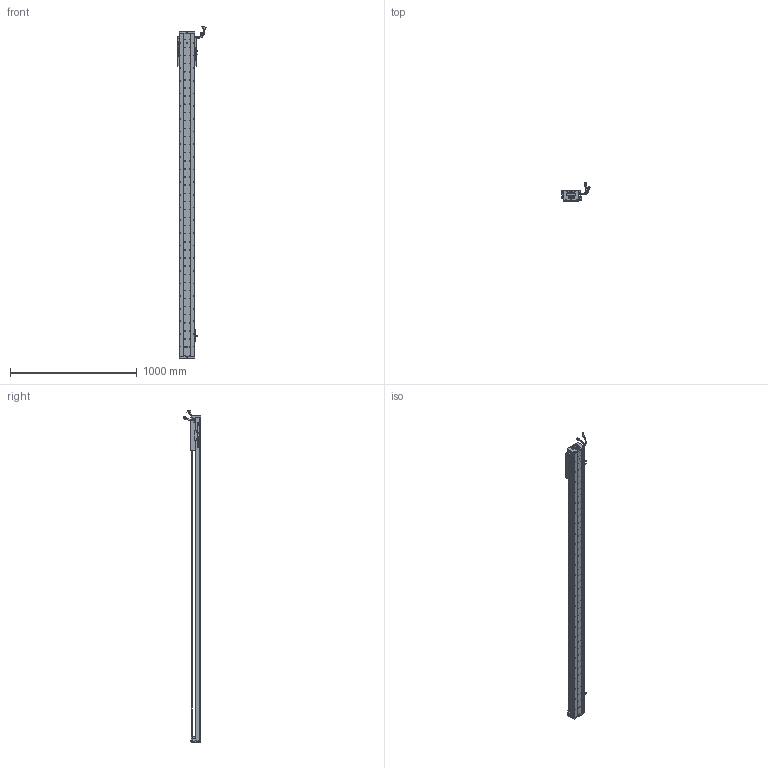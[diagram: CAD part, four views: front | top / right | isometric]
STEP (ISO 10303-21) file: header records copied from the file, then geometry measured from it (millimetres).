
FILE_DESCRIPTION (( 'STEP AP203' ), '1' );
FILE_NAME ('Z3-RY120D-1-L500-B-K.SLDASM_2250.step', '2021-05-17T05:49:42', ( '盈信电脑' ), ( '东莞市道滘镇水果街19号' ), 'SwSTEP 2.0', 'SolidWorks 2016', '' );
FILE_SCHEMA (( 'CONFIG_CONTROL_DESIGN' ));
Length unit declared in the file: millimetre
Products named in the file (37): Z3-RY120-500-倰第菁釱_2250; 120-Z-臏賑輸盄裔(21遴); SHIELDPLATE; 080黍杅芛假蚾釱21遴; Z3-RY120D-1-L500-B-K.SLDASM_2250; SCREW-M1.7; SEAL; PBU_SHEET; 140蚥薯蝶輸; Z3-RY120-L500詩湍100mm遵_2250; SCREW-M1.7-1; 140雄赽晤鎢ん堤盄; SCREW-M1.6; HARNESS-Part-2; Z-120詩湍傷裔啣; LABEL-Part-1; LABEL; Z-RY120D詩湍狟揤裔; HARNESS-Part-1; 榋妏寠巭燃_暯_M2_2; SCALE-Part-2; HOLDER0; SCREW-M1.6-3; RY100FB-遵嫖萇覜茼え; SEAL-Part-1; SCALE; COVER; Z3-RY120铝滑块（21款）; PSLH080_PSLF2; SCREW-M1.6-2; HARNESS; COVER-Part-1; SCREW-M1.6-1; Z-RY120D詩湍奻揤裔; SCALE-Part-1; 覜茼ん672; 672嫖萇羲壽假蚾釱
Assembly tree (43 placements, depth 4):
  Z3-RY120D-1-L500-B-K.SLDASM_2250
    Z3-RY120-500-倰第菁釱_2250
    覜茼ん672  x3
    672嫖萇羲壽假蚾釱  x2
    Z3-RY120铝滑块（21款）
    PSLH080_PSLF2
      SCALE
        SCALE-Part-1
        SCALE-Part-2
      HARNESS
        HARNESS-Part-1
        HARNESS-Part-2
      LABEL
        LABEL-Part-1
      COVER
        COVER-Part-1
      SEAL
        SEAL-Part-1
      榋妏寠巭燃_暯_M2_2
      SHIELDPLATE
      SCREW-M1.7
      SCREW-M1.7-1
      PBU_SHEET
      SCREW-M1.6
      SCREW-M1.6-1
      SCREW-M1.6-2
      SCREW-M1.6-3
      HOLDER0
    080黍杅芛假蚾釱21遴
    120-Z-臏賑輸盄裔(21遴)
    140雄赽晤鎢ん堤盄
    140蚥薯蝶輸  x2
    RY100FB-遵嫖萇覜茼え
    Z-120詩湍傷裔啣  x2
    Z-RY120D詩湍奻揤裔  x2
    Z-RY120D詩湍狟揤裔  x2
    Z3-RY120-L500詩湍100mm遵_2250
Bounding box: 222.83 x 140.94 x 2623.99 mm (x, y, z)
Volume: 6185848.1 mm3; surface area: 2158008.2 mm2
Topology: 38 solids, 38 shells, 3649 faces, 10367 edges, 6538 vertices
Faces by surface type: cylinder 1905, plane 1240, cone 382, torus 69, bspline 53
Entity records: 121854 total; most frequent: CARTESIAN_POINT 37051, ORIENTED_EDGE 17494, DIRECTION 16111, EDGE_CURVE 8747, AXIS2_PLACEMENT_3D 5960, VERTEX_POINT 5658, LINE 4191, VECTOR 4191
